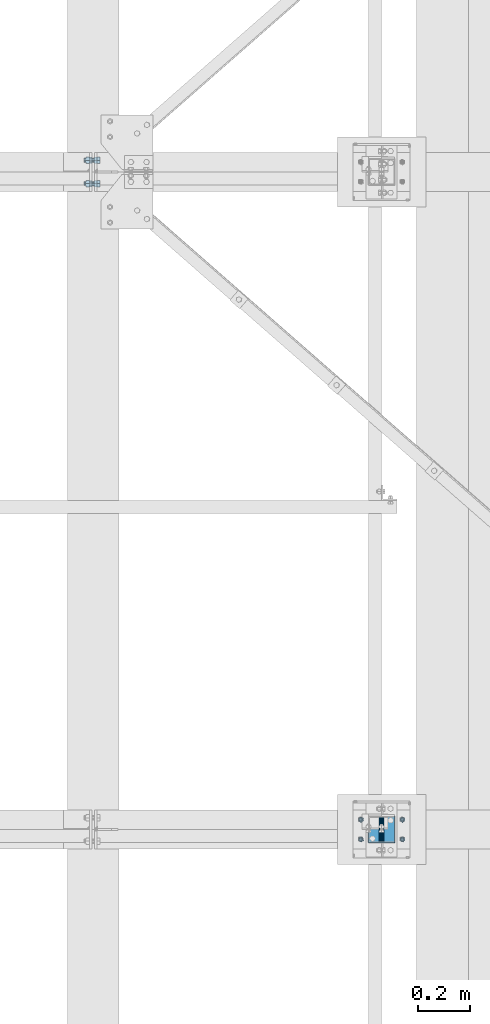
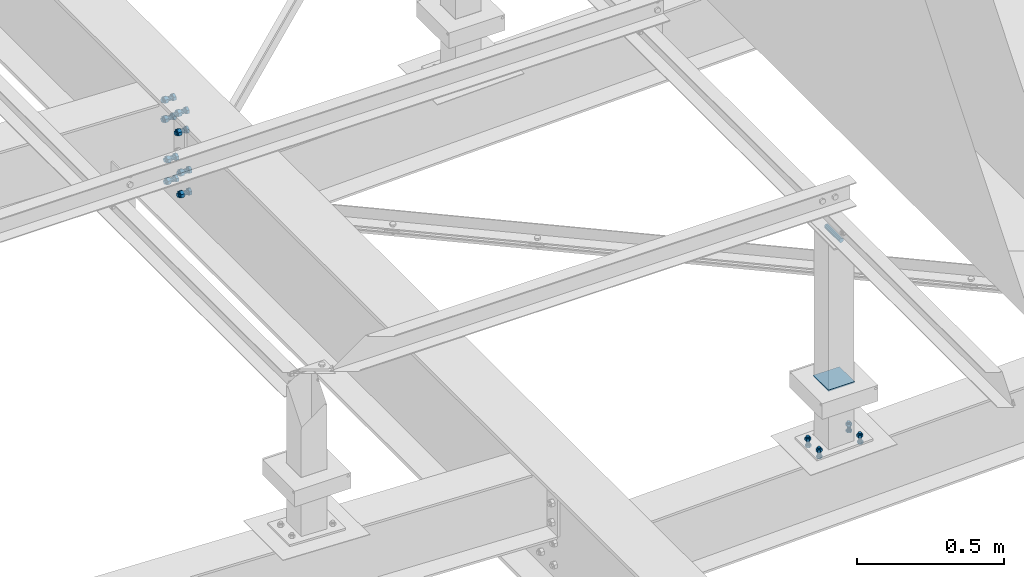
# One storey, part 81 of 3134: 7 mechanical fasteners, 3 elements without a shape of their own.
"""IFC2X3 building model written with IfcOpenShell, lengths in millimetres."""

from ifc_helpers import new_model, si_unit, frame, origin_with_axes, place, context, subcontext, project, spatial, faceted_brep, source, transform, mapped, material, type_object, element, aggregate, save


model = new_model("IFC2X3")

# Units and contexts
model_context = context("Model", 3, precision=1e-05, world=origin_with_axes())
body_context = subcontext(model_context, "Body", "Model", "MODEL_VIEW")
ifc_project = project(units=[si_unit("LENGTHUNIT", "METRE", prefix="MILLI"), si_unit("AREAUNIT", "SQUARE_METRE"), si_unit("VOLUMEUNIT", "CUBIC_METRE"), si_unit("MASSUNIT", "GRAM", prefix="KILO"), si_unit("TIMEUNIT", "SECOND"), si_unit("PLANEANGLEUNIT", "RADIAN"), si_unit("SOLIDANGLEUNIT", "STERADIAN"), si_unit("THERMODYNAMICTEMPERATUREUNIT", "DEGREE_CELSIUS"), si_unit("LUMINOUSINTENSITYUNIT", "LUMEN")], contexts=[model_context])

# Site, building, storey
site_placement = place(None, origin_with_axes())
site = spatial("IfcSite", under=ifc_project, at=site_placement, CompositionType="ELEMENT")
building_placement = place(site_placement, origin_with_axes())
building = spatial("IfcBuilding", under=site, at=building_placement, Name="Undefined", CompositionType="ELEMENT")
storey_placement = place(building_placement, origin_with_axes())
storey = spatial("IfcBuildingStorey", under=building, at=storey_placement, Name="Undefined", CompositionType="ELEMENT", Elevation=0.0)

# Assembly, mechanical fasteners
assembly_1_placement = place(storey_placement, origin_with_axes())
assembly_1 = element("IfcElementAssembly", 1, at=assembly_1_placement, inside=storey, Name="IPE500", AssemblyPlace="NOTDEFINED", PredefinedType="RIGID_FRAME")
ifc_material_1 = material(Name="8.8")
mechanical_fastener_type = type_object("IfcMechanicalFastenerType", Name="Bolt assembly")
shared_shape_1 = source(origin_with_axes(), body_context, "Body", "Brep", [
    faceted_brep([(13.856406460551, 0.0, 0.0), (6.92820323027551, 0.0, 12.0), (-6.92820323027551, 0.0, 12.0), (-13.856406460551, 0.0, 1.69692038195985e-15), (-6.92820323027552, 0.0, -12.0), (6.9282032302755, 0.0, -12.0), (6.9282032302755, 9.99999995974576, -12.0), (-6.92820323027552, 9.99999995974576, -12.0), (-13.856406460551, 9.99999995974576, 1.69692038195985e-15), (-6.92820323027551, 9.99999995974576, 12.0), (6.92820323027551, 9.99999995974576, 12.0), (13.856406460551, 9.99999995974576, 0.0), (8.0, 9.99999995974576, 0.0), (6.92820323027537, 9.99999995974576, 4.00000000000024), (3.99999999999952, 9.99999995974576, 6.92820323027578), (-8.29068785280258e-13, 9.99999995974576, 8.0), (-4.00000000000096, 9.99999995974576, 6.92820323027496), (-6.9282032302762, 9.99999995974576, 3.99999999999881), (-8.0, 9.99999995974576, -1.65813757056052e-12), (-6.92820323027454, 9.99999995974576, -4.00000000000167), (-3.99999999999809, 9.99999995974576, -6.92820323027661), (2.47832457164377e-12, 9.99999995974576, -8.0), (4.00000000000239, 9.99999995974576, -6.92820323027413), (6.92820323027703, 9.99999995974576, -3.99999999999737), (6.92820323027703, 49.9999999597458, -3.99999999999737), (4.00000000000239, 49.9999999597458, -6.92820323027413), (2.47832457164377e-12, 49.9999999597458, -8.0), (-3.99999999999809, 49.9999999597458, -6.92820323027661), (-6.92820323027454, 49.9999999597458, -4.00000000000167), (-8.0, 49.9999999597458, -1.65813757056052e-12), (-6.9282032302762, 49.9999999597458, 3.99999999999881), (-4.00000000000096, 49.9999999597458, 6.92820323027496), (-8.29068785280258e-13, 49.9999999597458, 8.0), (3.99999999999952, 49.9999999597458, 6.92820323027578), (6.92820323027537, 49.9999999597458, 4.00000000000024), (8.0, 49.9999999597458, 0.0), (13.856406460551, 30.1999997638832, 0.0), (6.92820323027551, 30.1999997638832, 12.0), (-6.92820323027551, 30.1999997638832, 12.0), (-13.856406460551, 30.1999997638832, 1.69692038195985e-15), (-6.92820323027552, 30.1999997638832, -12.0), (6.9282032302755, 30.1999997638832, -12.0), (6.9282032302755, 43.1999997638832, -12.0), (-6.92820323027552, 43.1999997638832, -12.0), (-13.856406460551, 43.1999997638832, 1.69692038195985e-15), (-6.92820323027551, 43.1999997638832, 12.0), (6.92820323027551, 43.1999997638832, 12.0), (13.856406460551, 43.1999997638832, 0.0)], [[[0, 1, 2, 3, 4, 5]], [[6, 7, 8, 9, 10, 11]], [[0, 11, 10, 1]], [[1, 10, 9, 2]], [[2, 9, 8, 3]], [[3, 8, 7, 4]], [[4, 7, 6, 5]], [[5, 6, 11, 0]], [[12, 13, 14, 15, 16, 17, 18, 19, 20, 21, 22, 23]], [[24, 25, 26, 27, 28, 29, 30, 31, 32, 33, 34, 35]], [[12, 35, 34, 13]], [[13, 34, 33, 14]], [[14, 33, 32, 15]], [[15, 32, 31, 16]], [[16, 31, 30, 17]], [[17, 30, 29, 18]], [[18, 29, 28, 19]], [[19, 28, 27, 20]], [[20, 27, 26, 21]], [[21, 26, 25, 22]], [[22, 25, 24, 23]], [[23, 24, 35, 12]], [[36, 37, 38, 39, 40, 41]], [[42, 43, 44, 45, 46, 47]], [[36, 47, 46, 37]], [[37, 46, 45, 38]], [[38, 45, 44, 39]], [[39, 44, 43, 40]], [[40, 43, 42, 41]], [[41, 42, 47, 36]]]),
    faceted_brep([(9.0, 20.0999997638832, 0.0), (7.79422863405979, 20.0999997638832, 4.50000000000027), (4.49999999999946, 20.0999997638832, 7.79422863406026), (-9.3270238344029e-13, 20.0999997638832, 9.0), (-4.50000000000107, 20.0999997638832, 7.79422863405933), (-7.79422863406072, 20.0999997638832, 4.49999999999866), (-9.0, 20.0999997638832, -1.86540476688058e-12), (-7.79422863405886, 20.0999997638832, -4.50000000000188), (-4.49999999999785, 20.0999997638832, -7.79422863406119), (2.78811514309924e-12, 20.0999997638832, -9.0), (4.50000000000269, 20.0999997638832, -7.7942286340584), (7.79422863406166, 20.0999997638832, -4.49999999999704), (7.79422863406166, 30.1999997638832, -4.49999999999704), (4.50000000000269, 30.1999997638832, -7.7942286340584), (2.78811514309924e-12, 30.1999997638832, -9.0), (-4.49999999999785, 30.1999997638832, -7.79422863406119), (-7.79422863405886, 30.1999997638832, -4.50000000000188), (-9.0, 30.1999997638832, -1.86540476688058e-12), (-7.79422863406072, 30.1999997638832, 4.49999999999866), (-4.50000000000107, 30.1999997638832, 7.79422863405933), (-9.3270238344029e-13, 30.1999997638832, 9.0), (4.49999999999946, 30.1999997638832, 7.79422863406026), (7.79422863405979, 30.1999997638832, 4.50000000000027), (9.0, 30.1999997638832, 0.0), (9.0, 10.1000023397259, 0.0), (7.79422863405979, 10.1000023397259, 4.50000000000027), (4.49999999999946, 10.1000023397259, 7.79422863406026), (-9.3270238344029e-13, 10.1000023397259, 9.0), (-4.50000000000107, 10.1000023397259, 7.79422863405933), (-7.79422863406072, 10.1000023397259, 4.49999999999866), (-9.0, 10.1000023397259, -1.86540476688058e-12), (-7.79422863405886, 10.1000023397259, -4.50000000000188), (-4.49999999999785, 10.1000023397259, -7.79422863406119), (2.78811514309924e-12, 10.1000023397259, -9.0), (4.50000000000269, 10.1000023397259, -7.7942286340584), (7.79422863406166, 10.1000023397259, -4.49999999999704), (7.79422863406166, 20.2999997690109, -4.49999999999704), (4.50000000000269, 20.2999997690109, -7.7942286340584), (2.78811514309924e-12, 20.2999997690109, -9.0), (-4.49999999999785, 20.2999997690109, -7.79422863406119), (-7.79422863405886, 20.2999997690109, -4.50000000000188), (-9.0, 20.2999997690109, -1.86540476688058e-12), (-7.79422863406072, 20.2999997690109, 4.49999999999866), (-4.50000000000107, 20.2999997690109, 7.79422863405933), (-9.3270238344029e-13, 20.2999997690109, 9.0), (4.49999999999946, 20.2999997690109, 7.79422863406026), (7.79422863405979, 20.2999997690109, 4.50000000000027), (9.0, 20.2999997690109, 0.0)], [[[0, 1, 2, 3, 4, 5, 6, 7, 8, 9, 10, 11]], [[12, 13, 14, 15, 16, 17, 18, 19, 20, 21, 22, 23]], [[0, 23, 22, 1]], [[1, 22, 21, 2]], [[2, 21, 20, 3]], [[3, 20, 19, 4]], [[4, 19, 18, 5]], [[5, 18, 17, 6]], [[6, 17, 16, 7]], [[7, 16, 15, 8]], [[8, 15, 14, 9]], [[9, 14, 13, 10]], [[10, 13, 12, 11]], [[11, 12, 23, 0]], [[24, 25, 26, 27, 28, 29, 30, 31, 32, 33, 34, 35]], [[36, 37, 38, 39, 40, 41, 42, 43, 44, 45, 46, 47]], [[24, 47, 46, 25]], [[25, 46, 45, 26]], [[26, 45, 44, 27]], [[27, 44, 43, 28]], [[28, 43, 42, 29]], [[29, 42, 41, 30]], [[30, 41, 40, 31]], [[31, 40, 39, 32]], [[32, 39, 38, 33]], [[33, 38, 37, 34]], [[34, 37, 36, 35]], [[35, 36, 47, 24]]]),
])
mechanical_fastener_1_placement = place(assembly_1_placement, frame((9310.09999986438, 24467.5, 3631.67000001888), z_axis=(0.0, 1.0, 0.0), x_axis=(0.0, 0.0, -1.0)))
mechanical_fastener_1 = element("IfcMechanicalFastener", 2, at=mechanical_fastener_1_placement, type_object=mechanical_fastener_type, material=ifc_material_1, Name="Bolt assembly", NominalDiameter=16.0, NominalLength=40.0, context=body_context, shape_type="MappedRepresentation", body=[
    mapped(shared_shape_1, transform((0.0, 0.0, 0.0))),
    mapped(shared_shape_1, transform((80.0, 0.0, 0.0))),
])
mechanical_fastener_2_placement = place(assembly_1_placement, frame((9310.09999986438, 24557.5, 3631.67000001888), z_axis=(0.0, 1.0, 0.0), x_axis=(0.0, 0.0, -1.0)))
mechanical_fastener_2 = element("IfcMechanicalFastener", 3, at=mechanical_fastener_2_placement, type_object=mechanical_fastener_type, material=ifc_material_1, Name="Bolt assembly", NominalDiameter=16.0, NominalLength=40.0, context=body_context, shape_type="MappedRepresentation", body=[
    mapped(shared_shape_1, transform((0.0, 0.0, 0.0))),
    mapped(shared_shape_1, transform((80.0, 0.0, 0.0))),
])
shared_shape_2 = source(origin_with_axes(), body_context, "Body", "Brep", [
    faceted_brep([(13.856406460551, -10.0, 0.0), (6.92820323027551, -10.0, 12.0), (-6.92820323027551, -10.0, 12.0), (-13.856406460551, -10.0, 1.69692038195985e-15), (-6.92820323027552, -10.0, -12.0), (6.9282032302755, -10.0, -12.0), (6.9282032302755, 0.0, -12.0), (-6.92820323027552, 0.0, -12.0), (-13.856406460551, 0.0, 1.69692038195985e-15), (-6.92820323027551, 0.0, 12.0), (6.92820323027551, 0.0, 12.0), (13.856406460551, 0.0, 0.0), (8.0, 0.0, 0.0), (6.92820323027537, 0.0, 4.00000000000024), (3.99999999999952, 0.0, 6.92820323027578), (-8.29068785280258e-13, 0.0, 8.0), (-4.00000000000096, 0.0, 6.92820323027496), (-6.9282032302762, 0.0, 3.99999999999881), (-8.0, 0.0, -1.65813757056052e-12), (-6.92820323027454, 0.0, -4.00000000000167), (-3.99999999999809, 0.0, -6.92820323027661), (2.47832457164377e-12, 0.0, -8.0), (4.00000000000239, 0.0, -6.92820323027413), (6.92820323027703, 0.0, -3.99999999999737), (6.92820323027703, 40.0, -3.99999999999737), (4.00000000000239, 40.0, -6.92820323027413), (2.47832457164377e-12, 40.0, -8.0), (-3.99999999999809, 40.0, -6.92820323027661), (-6.92820323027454, 40.0, -4.00000000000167), (-8.0, 40.0, -1.65813757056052e-12), (-6.9282032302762, 40.0, 3.99999999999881), (-4.00000000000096, 40.0, 6.92820323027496), (-8.29068785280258e-13, 40.0, 8.0), (3.99999999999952, 40.0, 6.92820323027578), (6.92820323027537, 40.0, 4.00000000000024), (8.0, 40.0, 0.0), (13.856406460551, 20.1999997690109, 0.0), (6.92820323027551, 20.1999997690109, 12.0), (-6.92820323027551, 20.1999997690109, 12.0), (-13.856406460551, 20.1999997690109, 1.69692038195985e-15), (-6.92820323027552, 20.1999997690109, -12.0), (6.9282032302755, 20.1999997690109, -12.0), (6.9282032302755, 33.1999997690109, -12.0), (-6.92820323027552, 33.1999997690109, -12.0), (-13.856406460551, 33.1999997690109, 1.69692038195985e-15), (-6.92820323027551, 33.1999997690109, 12.0), (6.92820323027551, 33.1999997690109, 12.0), (13.856406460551, 33.1999997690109, 0.0)], [[[0, 1, 2, 3, 4, 5]], [[6, 7, 8, 9, 10, 11]], [[0, 11, 10, 1]], [[1, 10, 9, 2]], [[2, 9, 8, 3]], [[3, 8, 7, 4]], [[4, 7, 6, 5]], [[5, 6, 11, 0]], [[12, 13, 14, 15, 16, 17, 18, 19, 20, 21, 22, 23]], [[24, 25, 26, 27, 28, 29, 30, 31, 32, 33, 34, 35]], [[12, 35, 34, 13]], [[13, 34, 33, 14]], [[14, 33, 32, 15]], [[15, 32, 31, 16]], [[16, 31, 30, 17]], [[17, 30, 29, 18]], [[18, 29, 28, 19]], [[19, 28, 27, 20]], [[20, 27, 26, 21]], [[21, 26, 25, 22]], [[22, 25, 24, 23]], [[23, 24, 35, 12]], [[36, 37, 38, 39, 40, 41]], [[42, 43, 44, 45, 46, 47]], [[36, 47, 46, 37]], [[37, 46, 45, 38]], [[38, 45, 44, 39]], [[39, 44, 43, 40]], [[40, 43, 42, 41]], [[41, 42, 47, 36]]]),
    faceted_brep([(9.0, 0.100000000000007, 0.0), (7.79422863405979, 0.100000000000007, 4.50000000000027), (4.49999999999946, 0.100000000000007, 7.79422863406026), (-9.3270238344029e-13, 0.100000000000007, 9.0), (-4.50000000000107, 0.100000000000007, 7.79422863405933), (-7.79422863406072, 0.100000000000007, 4.49999999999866), (-9.0, 0.100000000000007, -1.86540476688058e-12), (-7.79422863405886, 0.100000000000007, -4.50000000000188), (-4.49999999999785, 0.100000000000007, -7.79422863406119), (2.78811514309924e-12, 0.100000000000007, -9.0), (4.50000000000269, 0.100000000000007, -7.7942286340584), (7.79422863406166, 0.100000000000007, -4.49999999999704), (7.79422863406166, 10.1000023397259, -4.49999999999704), (4.50000000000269, 10.1000023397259, -7.7942286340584), (2.78811514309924e-12, 10.1000023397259, -9.0), (-4.49999999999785, 10.1000023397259, -7.79422863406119), (-7.79422863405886, 10.1000023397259, -4.50000000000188), (-9.0, 10.1000023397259, -1.86540476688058e-12), (-7.79422863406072, 10.1000023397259, 4.49999999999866), (-4.50000000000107, 10.1000023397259, 7.79422863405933), (-9.3270238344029e-13, 10.1000023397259, 9.0), (4.49999999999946, 10.1000023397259, 7.79422863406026), (7.79422863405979, 10.1000023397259, 4.50000000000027), (9.0, 10.1000023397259, 0.0), (9.0, 9.89999999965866, 0.0), (7.79422863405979, 9.89999999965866, 4.50000000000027), (4.49999999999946, 9.89999999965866, 7.79422863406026), (-9.3270238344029e-13, 9.89999999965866, 9.0), (-4.50000000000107, 9.89999999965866, 7.79422863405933), (-7.79422863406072, 9.89999999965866, 4.49999999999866), (-9.0, 9.89999999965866, -1.86540476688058e-12), (-7.79422863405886, 9.89999999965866, -4.50000000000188), (-4.49999999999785, 9.89999999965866, -7.79422863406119), (2.78811514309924e-12, 9.89999999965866, -9.0), (4.50000000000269, 9.89999999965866, -7.7942286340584), (7.79422863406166, 9.89999999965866, -4.49999999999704), (7.79422863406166, 20.1999997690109, -4.49999999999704), (4.50000000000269, 20.1999997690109, -7.7942286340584), (2.78811514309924e-12, 20.1999997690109, -9.0), (-4.49999999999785, 20.1999997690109, -7.79422863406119), (-7.79422863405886, 20.1999997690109, -4.50000000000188), (-9.0, 20.1999997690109, -1.86540476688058e-12), (-7.79422863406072, 20.1999997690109, 4.49999999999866), (-4.50000000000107, 20.1999997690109, 7.79422863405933), (-9.3270238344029e-13, 20.1999997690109, 9.0), (4.49999999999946, 20.1999997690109, 7.79422863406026), (7.79422863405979, 20.1999997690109, 4.50000000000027), (9.0, 20.1999997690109, 0.0)], [[[0, 1, 2, 3, 4, 5, 6, 7, 8, 9, 10, 11]], [[12, 13, 14, 15, 16, 17, 18, 19, 20, 21, 22, 23]], [[0, 23, 22, 1]], [[1, 22, 21, 2]], [[2, 21, 20, 3]], [[3, 20, 19, 4]], [[4, 19, 18, 5]], [[5, 18, 17, 6]], [[6, 17, 16, 7]], [[7, 16, 15, 8]], [[8, 15, 14, 9]], [[9, 14, 13, 10]], [[10, 13, 12, 11]], [[11, 12, 23, 0]], [[24, 25, 26, 27, 28, 29, 30, 31, 32, 33, 34, 35]], [[36, 37, 38, 39, 40, 41, 42, 43, 44, 45, 46, 47]], [[24, 47, 46, 25]], [[25, 46, 45, 26]], [[26, 45, 44, 27]], [[27, 44, 43, 28]], [[28, 43, 42, 29]], [[29, 42, 41, 30]], [[30, 41, 40, 31]], [[31, 40, 39, 32]], [[32, 39, 38, 33]], [[33, 38, 37, 34]], [[34, 37, 36, 35]], [[35, 36, 47, 24]]]),
])
mechanical_fastener_3_placement = place(assembly_1_placement, frame((9310.09999986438, 24467.5, 3381.67000001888), z_axis=(0.0, 1.0, 0.0), x_axis=(0.0, 0.0, -1.0)))
mechanical_fastener_3 = element("IfcMechanicalFastener", 4, at=mechanical_fastener_3_placement, type_object=mechanical_fastener_type, material=ifc_material_1, Name="Bolt assembly", NominalDiameter=16.0, NominalLength=40.0, context=body_context, shape_type="MappedRepresentation", body=[
    mapped(shared_shape_2, transform((0.0, 0.0, 0.0))),
    mapped(shared_shape_2, transform((90.0, 0.0, 0.0))),
])
mechanical_fastener_4_placement = place(assembly_1_placement, frame((9310.09999986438, 24557.5, 3381.67000001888), z_axis=(0.0, 1.0, 0.0), x_axis=(0.0, 0.0, -1.0)))
mechanical_fastener_4 = element("IfcMechanicalFastener", 5, at=mechanical_fastener_4_placement, type_object=mechanical_fastener_type, material=ifc_material_1, Name="Bolt assembly", NominalDiameter=16.0, NominalLength=40.0, context=body_context, shape_type="MappedRepresentation", body=[
    mapped(shared_shape_2, transform((0.0, 0.0, 0.0))),
    mapped(shared_shape_2, transform((90.0, 0.0, 0.0))),
])
aggregate(assembly_1, [mechanical_fastener_1, mechanical_fastener_2, mechanical_fastener_3, mechanical_fastener_4])

# Assembly, mechanical fastener
assembly_2_placement = place(storey_placement, origin_with_axes())
assembly_2 = element("IfcElementAssembly", 6, at=assembly_2_placement, inside=storey, Name="300", AssemblyPlace="NOTDEFINED", PredefinedType="RIGID_FRAME")
shared_shape_3 = source(origin_with_axes(), body_context, "Body", "Brep", [
    faceted_brep([(10.9696551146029, -4.1984682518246, 0.0), (5.48482755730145, -4.1984682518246, 9.5), (-5.48482755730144, -4.1984682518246, 9.5), (-10.9696551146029, -4.1984682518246, 1.34339530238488e-15), (-5.48482755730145, -4.1984682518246, -9.5), (5.48482755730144, -4.1984682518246, -9.50000000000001), (5.48482755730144, 3.8015317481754, -9.50000000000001), (-5.48482755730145, 3.8015317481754, -9.5), (-10.9696551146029, 3.8015317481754, 1.34339530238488e-15), (-5.48482755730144, 3.8015317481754, 9.5), (5.48482755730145, 3.8015317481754, 9.5), (10.9696551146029, 3.8015317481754, 0.0), (6.0, 3.8015317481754, 0.0), (5.19615242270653, 3.8015317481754, 3.00000000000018), (2.99999999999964, 3.8015317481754, 5.19615242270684), (-6.21801588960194e-13, 3.8015317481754, 6.0), (-3.00000000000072, 3.8015317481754, 5.19615242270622), (-5.19615242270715, 3.8015317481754, 2.9999999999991), (-6.0, 3.8015317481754, -1.24360317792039e-12), (-5.19615242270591, 3.8015317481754, -3.00000000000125), (-2.99999999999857, 3.8015317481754, -5.19615242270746), (1.85874342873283e-12, 3.8015317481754, -6.0), (3.00000000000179, 3.8015317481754, -5.1961524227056), (5.19615242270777, 3.8015317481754, -2.99999999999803), (5.19615242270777, 38.8015317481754, -2.99999999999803), (3.00000000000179, 38.8015317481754, -5.1961524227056), (1.85874342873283e-12, 38.8015317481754, -6.0), (-2.99999999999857, 38.8015317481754, -5.19615242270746), (-5.19615242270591, 38.8015317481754, -3.00000000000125), (-6.0, 38.8015317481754, -1.24360317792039e-12), (-5.19615242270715, 38.8015317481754, 2.9999999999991), (-3.00000000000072, 38.8015317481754, 5.19615242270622), (-6.21801588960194e-13, 38.8015317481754, 6.0), (2.99999999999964, 38.8015317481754, 5.19615242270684), (5.19615242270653, 38.8015317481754, 3.00000000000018), (6.0, 38.8015317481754, 0.0), (10.9696551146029, 23.0039050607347, 0.0), (5.48482755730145, 23.0039050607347, 9.5), (-5.48482755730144, 23.0039050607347, 9.5), (-10.9696551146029, 23.0039050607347, 1.34339530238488e-15), (-5.48482755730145, 23.0039050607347, -9.5), (5.48482755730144, 23.0039050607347, -9.50000000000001), (5.48482755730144, 33.0039050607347, -9.50000000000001), (-5.48482755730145, 33.0039050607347, -9.5), (-10.9696551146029, 33.0039050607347, 1.34339530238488e-15), (-5.48482755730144, 33.0039050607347, 9.5), (5.48482755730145, 33.0039050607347, 9.5), (10.9696551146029, 33.0039050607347, 0.0)], [[[0, 1, 2, 3, 4, 5]], [[6, 7, 8, 9, 10, 11]], [[0, 11, 10, 1]], [[1, 10, 9, 2]], [[2, 9, 8, 3]], [[3, 8, 7, 4]], [[4, 7, 6, 5]], [[5, 6, 11, 0]], [[12, 13, 14, 15, 16, 17, 18, 19, 20, 21, 22, 23]], [[24, 25, 26, 27, 28, 29, 30, 31, 32, 33, 34, 35]], [[12, 35, 34, 13]], [[13, 34, 33, 14]], [[14, 33, 32, 15]], [[15, 32, 31, 16]], [[16, 31, 30, 17]], [[17, 30, 29, 18]], [[18, 29, 28, 19]], [[19, 28, 27, 20]], [[20, 27, 26, 21]], [[21, 26, 25, 22]], [[22, 25, 24, 23]], [[23, 24, 35, 12]], [[36, 37, 38, 39, 40, 41]], [[42, 43, 44, 45, 46, 47]], [[36, 47, 46, 37]], [[37, 46, 45, 38]], [[38, 45, 44, 39]], [[39, 44, 43, 40]], [[40, 43, 42, 41]], [[41, 42, 47, 36]]]),
    faceted_brep([(7.0, 14.9039050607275, 0.0), (6.06217782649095, 14.9039050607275, 3.50000000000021), (3.49999999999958, 14.9039050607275, 6.06217782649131), (-7.25435187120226e-13, 14.9039050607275, 7.0), (-3.50000000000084, 14.9039050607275, 6.06217782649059), (-6.06217782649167, 14.9039050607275, 3.49999999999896), (-7.0, 14.9039050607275, -1.45087037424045e-12), (-6.06217782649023, 14.9039050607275, -3.50000000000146), (-3.49999999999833, 14.9039050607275, -6.06217782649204), (2.1685340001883e-12, 14.9039050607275, -7.0), (3.50000000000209, 14.9039050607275, -6.06217782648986), (6.0621778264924, 14.9039050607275, -3.4999999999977), (6.0621778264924, 23.0039050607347, -3.4999999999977), (3.50000000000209, 23.0039050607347, -6.06217782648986), (2.1685340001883e-12, 23.0039050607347, -7.0), (-3.49999999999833, 23.0039050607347, -6.06217782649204), (-6.06217782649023, 23.0039050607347, -3.50000000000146), (-7.0, 23.0039050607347, -1.45087037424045e-12), (-6.06217782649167, 23.0039050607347, 3.49999999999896), (-3.50000000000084, 23.0039050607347, 6.06217782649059), (-7.25435187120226e-13, 23.0039050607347, 7.0), (3.49999999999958, 23.0039050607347, 6.06217782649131), (6.06217782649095, 23.0039050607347, 3.50000000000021), (7.0, 23.0039050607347, 0.0), (7.0, 3.9015317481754, 0.0), (6.06217782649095, 3.9015317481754, 3.50000000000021), (3.49999999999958, 3.9015317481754, 6.06217782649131), (-7.25435187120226e-13, 3.9015317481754, 7.0), (-3.50000000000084, 3.9015317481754, 6.06217782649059), (-6.06217782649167, 3.9015317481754, 3.49999999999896), (-7.0, 3.9015317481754, -1.45087037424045e-12), (-6.06217782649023, 3.9015317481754, -3.50000000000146), (-3.49999999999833, 3.9015317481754, -6.06217782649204), (2.1685340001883e-12, 3.9015317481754, -7.0), (3.50000000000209, 3.9015317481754, -6.06217782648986), (6.0621778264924, 3.9015317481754, -3.4999999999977), (6.0621778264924, 13.1015315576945, -3.4999999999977), (3.50000000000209, 13.1015315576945, -6.06217782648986), (2.1685340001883e-12, 13.1015315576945, -7.0), (-3.49999999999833, 13.1015315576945, -6.06217782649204), (-6.06217782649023, 13.1015315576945, -3.50000000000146), (-7.0, 13.1015315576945, -1.45087037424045e-12), (-6.06217782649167, 13.1015315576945, 3.49999999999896), (-3.50000000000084, 13.1015315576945, 6.06217782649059), (-7.25435187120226e-13, 13.1015315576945, 7.0), (3.49999999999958, 13.1015315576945, 6.06217782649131), (6.06217782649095, 13.1015315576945, 3.50000000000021), (7.0, 13.1015315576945, 0.0)], [[[0, 1, 2, 3, 4, 5, 6, 7, 8, 9, 10, 11]], [[12, 13, 14, 15, 16, 17, 18, 19, 20, 21, 22, 23]], [[0, 23, 22, 1]], [[1, 22, 21, 2]], [[2, 21, 20, 3]], [[3, 20, 19, 4]], [[4, 19, 18, 5]], [[5, 18, 17, 6]], [[6, 17, 16, 7]], [[7, 16, 15, 8]], [[8, 15, 14, 9]], [[9, 14, 13, 10]], [[10, 13, 12, 11]], [[11, 12, 23, 0]], [[24, 25, 26, 27, 28, 29, 30, 31, 32, 33, 34, 35]], [[36, 37, 38, 39, 40, 41, 42, 43, 44, 45, 46, 47]], [[24, 47, 46, 25]], [[25, 46, 45, 26]], [[26, 45, 44, 27]], [[27, 44, 43, 28]], [[28, 43, 42, 29]], [[29, 42, 41, 30]], [[30, 41, 40, 31]], [[31, 40, 39, 32]], [[32, 39, 38, 33]], [[33, 38, 37, 34]], [[34, 37, 36, 35]], [[35, 36, 47, 24]]]),
])
mechanical_fastener_5_placement = place(assembly_2_placement, frame((10405.7748812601, 21943.25, 3374.2272055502), z_axis=(0.999519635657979, 0.0, 0.0309919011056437), x_axis=(0.0, 1.0, 0.0)))
mechanical_fastener_5 = element("IfcMechanicalFastener", 7, at=mechanical_fastener_5_placement, type_object=mechanical_fastener_type, material=ifc_material_1, Name="Bolt assembly", NominalDiameter=12.0, NominalLength=35.0, context=body_context, shape_type="MappedRepresentation", body=[
    mapped(shared_shape_3, transform((0.0, -5.32963895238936e-10, -79.9999999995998))),
    mapped(shared_shape_3, transform((76.0, -5.32963895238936e-10, -79.9999999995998))),
    mapped(shared_shape_3, transform((0.0, 5.3114490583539e-10, 79.9999999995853))),
    mapped(shared_shape_3, transform((76.0, 5.3114490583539e-10, 79.9999999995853))),
])
aggregate(assembly_2, [mechanical_fastener_5])

# Assembly, mechanical fasteners
assembly_3_placement = place(storey_placement, origin_with_axes())
assembly_3 = element("IfcElementAssembly", 8, at=assembly_3_placement, inside=storey, AssemblyPlace="NOTDEFINED", PredefinedType="RIGID_FRAME")
shared_shape_4 = source(origin_with_axes(), body_context, "Body", "Brep", [
    faceted_brep([(9.0, -50.0, 0.0), (7.79422863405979, -50.0, 4.50000000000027), (4.49999999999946, -50.0, 7.79422863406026), (-9.3270238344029e-13, -50.0, 9.0), (-4.50000000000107, -50.0, 7.79422863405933), (-7.79422863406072, -50.0, 4.49999999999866), (-9.0, -50.0, -1.86540476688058e-12), (-7.79422863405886, -50.0, -4.50000000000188), (-4.49999999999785, -50.0, -7.79422863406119), (2.78811514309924e-12, -50.0, -9.0), (4.50000000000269, -50.0, -7.7942286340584), (7.79422863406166, -50.0, -4.49999999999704), (7.79422863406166, 50.1, -4.49999999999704), (4.50000000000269, 50.1, -7.7942286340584), (2.78811514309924e-12, 50.1, -9.0), (-4.49999999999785, 50.1, -7.79422863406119), (-7.79422863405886, 50.1, -4.50000000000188), (-9.0, 50.1, -1.86540476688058e-12), (-7.79422863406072, 50.1, 4.49999999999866), (-4.50000000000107, 50.1, 7.79422863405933), (-9.3270238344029e-13, 50.1, 9.0), (4.49999999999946, 50.1, 7.79422863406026), (7.79422863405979, 50.1, 4.50000000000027), (9.0, 50.1, 0.0)], [[[0, 1, 2, 3, 4, 5, 6, 7, 8, 9, 10, 11]], [[12, 13, 14, 15, 16, 17, 18, 19, 20, 21, 22, 23]], [[0, 23, 22, 1]], [[1, 22, 21, 2]], [[2, 21, 20, 3]], [[3, 20, 19, 4]], [[4, 19, 18, 5]], [[5, 18, 17, 6]], [[6, 17, 16, 7]], [[7, 16, 15, 8]], [[8, 15, 14, 9]], [[9, 14, 13, 10]], [[10, 13, 12, 11]], [[11, 12, 23, 0]]]),
])
mechanical_fastener_6_placement = place(assembly_3_placement, frame((10405.0, 21981.25, 4245.0), z_axis=(-1.0, 0.0, 0.0), x_axis=(0.0, 0.0, 1.0)))
mechanical_fastener_6 = element("IfcMechanicalFastener", 9, at=mechanical_fastener_6_placement, type_object=mechanical_fastener_type, material=ifc_material_1, Name="Bolt assembly", NominalDiameter=16.0, NominalLength=100.0, context=body_context, shape_type="MappedRepresentation", body=[
    mapped(shared_shape_4, transform((0.0, 0.0, 0.0))),
])
ifc_material_2 = material(Name="6.8")
shared_shape_5 = source(origin_with_axes(), body_context, "Body", "Brep", [
    faceted_brep([(51.5, 1.36424205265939e-12, 50.0), (51.3858192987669, 1.36424205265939e-12, 50.5740251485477), (51.0606601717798, 1.36424205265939e-12, 51.0606601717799), (50.5740251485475, 1.36424205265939e-12, 51.385819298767), (-50.0000000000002, 1.36424205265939e-12, 51.5), (-50.7500000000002, 1.36424205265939e-12, 51.2990381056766), (-51.2990381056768, 1.36424205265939e-12, 50.7499999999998), (-51.5, 1.36424205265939e-12, 49.9999999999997), (-51.5, 1.36424205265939e-12, -50.0000000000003), (-51.2990381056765, 1.36424205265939e-12, -50.7500000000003), (-50.7499999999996, 1.36424205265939e-12, -51.2990381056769), (-49.9999999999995, 1.36424205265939e-12, -51.5), (50.0000000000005, 1.36424205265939e-12, -51.5), (50.7500000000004, 1.36424205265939e-12, -51.2990381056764), (51.2990381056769, 1.36424205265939e-12, -50.7499999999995), (51.5, 1.36424205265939e-12, -49.9999999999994), (51.5, 5.10000000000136, -49.9999999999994), (51.2990381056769, 5.10000000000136, -50.7499999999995), (50.7500000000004, 5.10000000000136, -51.2990381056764), (50.0000000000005, 5.10000000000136, -51.5), (-49.9999999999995, 5.10000000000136, -51.5), (-50.7499999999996, 5.10000000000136, -51.2990381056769), (-51.2990381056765, 5.10000000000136, -50.7500000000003), (-51.5, 5.10000000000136, -50.0000000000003), (-51.5, 5.10000000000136, 49.9999999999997), (-51.2990381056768, 5.10000000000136, 50.7499999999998), (-50.7500000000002, 5.10000000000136, 51.2990381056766), (-50.0000000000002, 5.10000000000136, 51.5), (50.5740251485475, 5.10000000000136, 51.385819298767), (51.0606601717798, 5.10000000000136, 51.0606601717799), (51.3858192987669, 5.10000000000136, 50.5740251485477), (51.5, 5.10000000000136, 50.0)], [[[0, 1, 2, 3, 4, 5, 6, 7, 8, 9, 10, 11, 12, 13, 14, 15]], [[16, 17, 18, 19, 20, 21, 22, 23, 24, 25, 26, 27, 28, 29, 30, 31]], [[0, 31, 30, 1]], [[1, 30, 29, 2]], [[2, 29, 28, 3]], [[3, 28, 27, 4]], [[4, 27, 26, 5]], [[5, 26, 25, 6]], [[6, 25, 24, 7]], [[7, 24, 23, 8]], [[8, 23, 22, 9]], [[9, 22, 21, 10]], [[10, 21, 20, 11]], [[11, 20, 19, 12]], [[12, 19, 18, 13]], [[13, 18, 17, 14]], [[14, 17, 16, 15]], [[15, 16, 31, 0]]]),
])
mechanical_fastener_7_placement = place(assembly_3_placement, frame((10405.0, 21981.25, 3643.81), z_axis=(0.0, -1.0, 0.0), x_axis=(-1.0, 0.0, 0.0)))
mechanical_fastener_7 = element("IfcMechanicalFastener", 10, at=mechanical_fastener_7_placement, type_object=mechanical_fastener_type, material=ifc_material_2, Name="Bolt assembly", NominalDiameter=10.0, NominalLength=5.0, context=body_context, shape_type="MappedRepresentation", body=[
    mapped(shared_shape_5, transform((0.0, 0.0, 0.0))),
])
aggregate(assembly_3, [mechanical_fastener_7, mechanical_fastener_6])

save(model, "model.ifc")
